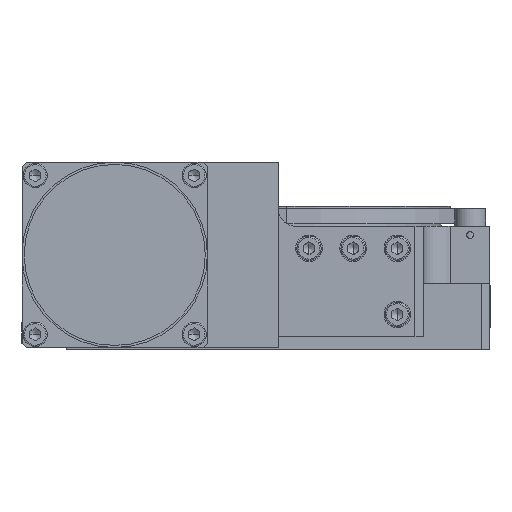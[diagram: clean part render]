
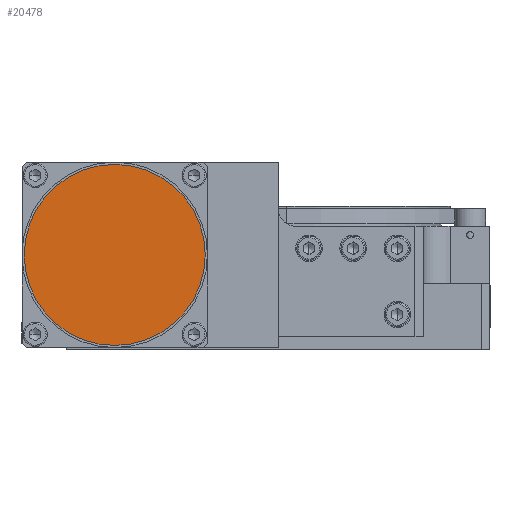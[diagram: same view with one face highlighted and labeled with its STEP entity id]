
A CAD part, front view. The second image highlights one B-rep face of the part: STEP entity #20478.
In plain terms, the highlighted planar face has unit normal (0, -1, 0).
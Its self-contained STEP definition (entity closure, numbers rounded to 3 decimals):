
#2539 = DIRECTION ( 'NONE',  ( 0., 0., 1. ) ) ;
#2540 = DIRECTION ( 'NONE',  ( 0., 1., 0. ) ) ;
#2541 = CARTESIAN_POINT ( 'NONE',  ( 11., -69.5, 21.5 ) ) ;
#2542 = AXIS2_PLACEMENT_3D ( 'NONE', #2541, #2540, #2539 ) ;
#2543 = PLANE ( 'NONE',  #2542 ) ;
#2544 = FACE_OUTER_BOUND ( 'NONE', #20480, .T. ) ;
#2625 = DIRECTION ( 'NONE',  ( 1., 0., 0. ) ) ;
#2626 = DIRECTION ( 'NONE',  ( 0., 1., 0. ) ) ;
#2627 = CARTESIAN_POINT ( 'NONE',  ( 11., -69.5, 21.5 ) ) ;
#2628 = AXIS2_PLACEMENT_3D ( 'NONE', #2627, #2626, #2625 ) ;
#2629 = CIRCLE ( 'NONE', #2628, 20.5 ) ;
#6885 = CARTESIAN_POINT ( 'NONE',  ( 31.5, -69.5, 21.5 ) ) ;
#6886 = DIRECTION ( 'NONE',  ( 1., 0., 0. ) ) ;
#6887 = DIRECTION ( 'NONE',  ( 0., 1., 0. ) ) ;
#6888 = CARTESIAN_POINT ( 'NONE',  ( 11., -69.5, 21.5 ) ) ;
#6889 = AXIS2_PLACEMENT_3D ( 'NONE', #6888, #6887, #6886 ) ;
#6890 = CIRCLE ( 'NONE', #6889, 20.5 ) ;
#6891 = CARTESIAN_POINT ( 'NONE',  ( -9.5, -69.5, 21.5 ) ) ;
#20478 = ADVANCED_FACE ( 'NONE', ( #2544 ), #2543, .F. ) ;
#20480 = EDGE_LOOP ( 'NONE', ( #20482, #20514 ) ) ;
#20482 = ORIENTED_EDGE ( 'NONE', *, *, #20512, .F. ) ;
#20512 = EDGE_CURVE ( 'NONE', #22486, #22483, #2629, .T. ) ;
#20514 = ORIENTED_EDGE ( 'NONE', *, *, #22485, .F. ) ;
#22483 = VERTEX_POINT ( 'NONE', #6891 ) ;
#22485 = EDGE_CURVE ( 'NONE', #22483, #22486, #6890, .T. ) ;
#22486 = VERTEX_POINT ( 'NONE', #6885 ) ;
